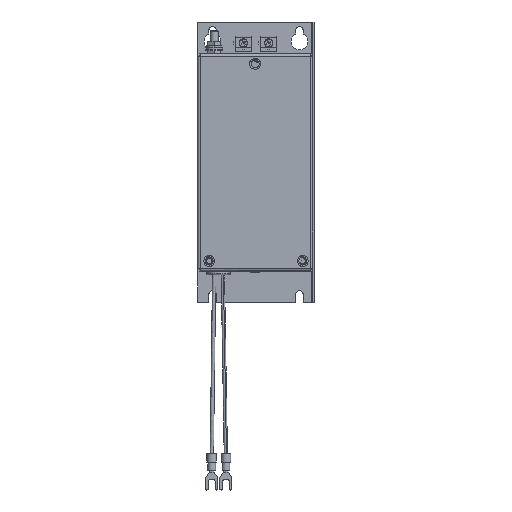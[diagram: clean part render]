
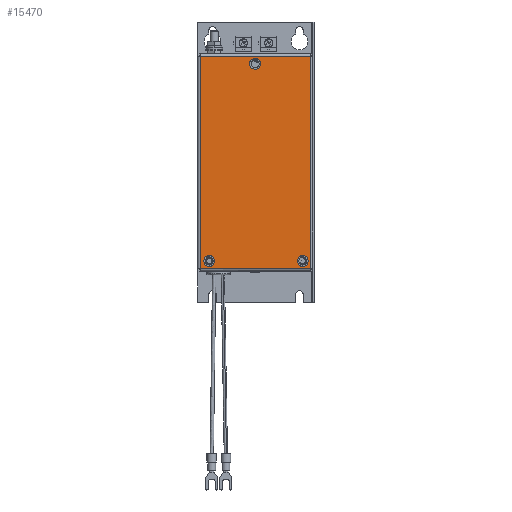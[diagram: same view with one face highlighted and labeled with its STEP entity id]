
A CAD part, front view. The second image highlights one B-rep face of the part: STEP entity #15470.
In plain terms, the highlighted planar face has unit normal (0, -1, 0).
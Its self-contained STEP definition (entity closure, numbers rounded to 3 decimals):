
#1461 = DIRECTION ( 'NONE',  ( -1., 0., 0. ) ) ;
#2843 = DIRECTION ( 'NONE',  ( 1., 0., 0. ) ) ;
#3065 = ORIENTED_EDGE ( 'NONE', *, *, #65163, .T. ) ;
#3835 = CARTESIAN_POINT ( 'NONE',  ( -37.154, 0., -65. ) ) ;
#4229 = CARTESIAN_POINT ( 'NONE',  ( -8.654, 0., -124. ) ) ;
#4364 = ORIENTED_EDGE ( 'NONE', *, *, #28889, .T. ) ;
#4720 = CIRCLE ( 'NONE', #42073, 2.975 ) ;
#6026 = LINE ( 'NONE', #57185, #37045 ) ;
#6737 = DIRECTION ( 'NONE',  ( 1., 0., 0. ) ) ;
#7076 = VECTOR ( 'NONE', #33253, 1000. ) ;
#7813 = CARTESIAN_POINT ( 'NONE',  ( -11.629, 0., -124. ) ) ;
#7958 = CIRCLE ( 'NONE', #26126, 2.975 ) ;
#9545 = DIRECTION ( 'NONE',  ( 0., 1., 0. ) ) ;
#10673 = VERTEX_POINT ( 'NONE', #53551 ) ;
#11314 = CARTESIAN_POINT ( 'NONE',  ( -37.154, 0., -6. ) ) ;
#11489 = EDGE_CURVE ( 'NONE', #12214, #38595, #4720, .T. ) ;
#11646 = DIRECTION ( 'NONE',  ( 0., 1., 0. ) ) ;
#11811 = VERTEX_POINT ( 'NONE', #7813 ) ;
#12214 = VERTEX_POINT ( 'NONE', #29045 ) ;
#12821 = CARTESIAN_POINT ( 'NONE',  ( -70.154, 0., -33.25 ) ) ;
#14910 = DIRECTION ( 'NONE',  ( 1., 0., 0. ) ) ;
#15470 = ADVANCED_FACE ( 'NONE', ( #18201, #33276, #39924, #64341 ), #48631, .F. ) ;
#15732 = DIRECTION ( 'NONE',  ( 0., 0., 1. ) ) ;
#17142 = DIRECTION ( 'NONE',  ( 1., 0., 0. ) ) ;
#18042 = CIRCLE ( 'NONE', #55436, 2.975 ) ;
#18074 = ORIENTED_EDGE ( 'NONE', *, *, #11489, .T. ) ;
#18201 = FACE_BOUND ( 'NONE', #62756, .T. ) ;
#18575 = ORIENTED_EDGE ( 'NONE', *, *, #65536, .T. ) ;
#20378 = CARTESIAN_POINT ( 'NONE',  ( -4.154, 0., -1.5 ) ) ;
#20755 = CARTESIAN_POINT ( 'NONE',  ( -67.629, 0., -124. ) ) ;
#22473 = LINE ( 'NONE', #52553, #31422 ) ;
#22872 = VECTOR ( 'NONE', #1461, 1000. ) ;
#24498 = DIRECTION ( 'NONE',  ( 0., 1., 0. ) ) ;
#26051 = DIRECTION ( 'NONE',  ( 1., 0., 0. ) ) ;
#26126 = AXIS2_PLACEMENT_3D ( 'NONE', #4229, #9545, #14910 ) ;
#27314 = EDGE_CURVE ( 'NONE', #43150, #59271, #32529, .T. ) ;
#28278 = EDGE_LOOP ( 'NONE', ( #30538, #3065 ) ) ;
#28664 = CARTESIAN_POINT ( 'NONE',  ( -64.654, 0., -124. ) ) ;
#28889 = EDGE_CURVE ( 'NONE', #10673, #46600, #18042, .T. ) ;
#29045 = CARTESIAN_POINT ( 'NONE',  ( -61.679, 0., -124. ) ) ;
#29114 = AXIS2_PLACEMENT_3D ( 'NONE', #28664, #40023, #29328 ) ;
#29299 = DIRECTION ( 'NONE',  ( 0., 1., 0. ) ) ;
#29328 = DIRECTION ( 'NONE',  ( 1., 0., 0. ) ) ;
#30538 = ORIENTED_EDGE ( 'NONE', *, *, #48235, .T. ) ;
#31274 = CARTESIAN_POINT ( 'NONE',  ( -34.179, 0., -6. ) ) ;
#31422 = VECTOR ( 'NONE', #6737, 1000. ) ;
#32205 = CARTESIAN_POINT ( 'NONE',  ( -19.904, 0., -1.5 ) ) ;
#32529 = LINE ( 'NONE', #32205, #22872 ) ;
#33253 = DIRECTION ( 'NONE',  ( 0., 0., -1. ) ) ;
#33276 = FACE_BOUND ( 'NONE', #28278, .T. ) ;
#33875 = ORIENTED_EDGE ( 'NONE', *, *, #51271, .T. ) ;
#36610 = CARTESIAN_POINT ( 'NONE',  ( -70.154, 0., -128.5 ) ) ;
#37037 = VERTEX_POINT ( 'NONE', #47004 ) ;
#37045 = VECTOR ( 'NONE', #15732, 1000. ) ;
#38019 = DIRECTION ( 'NONE',  ( 1., 0., 0. ) ) ;
#38595 = VERTEX_POINT ( 'NONE', #20755 ) ;
#38605 = DIRECTION ( 'NONE',  ( 0., 1., 0. ) ) ;
#39457 = AXIS2_PLACEMENT_3D ( 'NONE', #11314, #11646, #26051 ) ;
#39924 = FACE_BOUND ( 'NONE', #52721, .T. ) ;
#40023 = DIRECTION ( 'NONE',  ( 0., 1., 0. ) ) ;
#40282 = ORIENTED_EDGE ( 'NONE', *, *, #63171, .T. ) ;
#42073 = AXIS2_PLACEMENT_3D ( 'NONE', #44344, #29299, #38019 ) ;
#42552 = CARTESIAN_POINT ( 'NONE',  ( -8.654, 0., -124. ) ) ;
#43150 = VERTEX_POINT ( 'NONE', #20378 ) ;
#43899 = CARTESIAN_POINT ( 'NONE',  ( -70.154, 0., -1.5 ) ) ;
#44344 = CARTESIAN_POINT ( 'NONE',  ( -64.654, 0., -124. ) ) ;
#44454 = AXIS2_PLACEMENT_3D ( 'NONE', #3835, #38605, #2843 ) ;
#46600 = VERTEX_POINT ( 'NONE', #31274 ) ;
#47004 = CARTESIAN_POINT ( 'NONE',  ( -5.679, 0., -124. ) ) ;
#48235 = EDGE_CURVE ( 'NONE', #37037, #11811, #66022, .T. ) ;
#48631 = PLANE ( 'NONE',  #44454 ) ;
#48780 = ORIENTED_EDGE ( 'NONE', *, *, #27314, .T. ) ;
#51271 = EDGE_CURVE ( 'NONE', #46600, #10673, #57649, .T. ) ;
#52553 = CARTESIAN_POINT ( 'NONE',  ( -53.654, 0., -128.5 ) ) ;
#52657 = CIRCLE ( 'NONE', #29114, 2.975 ) ;
#52721 = EDGE_LOOP ( 'NONE', ( #18074, #40282 ) ) ;
#53551 = CARTESIAN_POINT ( 'NONE',  ( -40.129, 0., -6. ) ) ;
#54265 = DIRECTION ( 'NONE',  ( 1., 0., 0. ) ) ;
#55436 = AXIS2_PLACEMENT_3D ( 'NONE', #59270, #24498, #54265 ) ;
#56826 = CARTESIAN_POINT ( 'NONE',  ( -4.154, 0., -128.5 ) ) ;
#56937 = DIRECTION ( 'NONE',  ( 0., 1., 0. ) ) ;
#57185 = CARTESIAN_POINT ( 'NONE',  ( -4.154, 0., -96.75 ) ) ;
#57649 = CIRCLE ( 'NONE', #39457, 2.975 ) ;
#59137 = ORIENTED_EDGE ( 'NONE', *, *, #64622, .T. ) ;
#59248 = VERTEX_POINT ( 'NONE', #36610 ) ;
#59270 = CARTESIAN_POINT ( 'NONE',  ( -37.154, 0., -6. ) ) ;
#59271 = VERTEX_POINT ( 'NONE', #43899 ) ;
#59380 = EDGE_LOOP ( 'NONE', ( #60926, #48780, #18575, #59137 ) ) ;
#59911 = VERTEX_POINT ( 'NONE', #56826 ) ;
#60926 = ORIENTED_EDGE ( 'NONE', *, *, #66105, .T. ) ;
#62756 = EDGE_LOOP ( 'NONE', ( #33875, #4364 ) ) ;
#63171 = EDGE_CURVE ( 'NONE', #38595, #12214, #52657, .T. ) ;
#63842 = AXIS2_PLACEMENT_3D ( 'NONE', #42552, #56937, #17142 ) ;
#63994 = LINE ( 'NONE', #12821, #7076 ) ;
#64341 = FACE_OUTER_BOUND ( 'NONE', #59380, .T. ) ;
#64622 = EDGE_CURVE ( 'NONE', #59248, #59911, #22473, .T. ) ;
#65163 = EDGE_CURVE ( 'NONE', #11811, #37037, #7958, .T. ) ;
#65536 = EDGE_CURVE ( 'NONE', #59271, #59248, #63994, .T. ) ;
#66022 = CIRCLE ( 'NONE', #63842, 2.975 ) ;
#66105 = EDGE_CURVE ( 'NONE', #59911, #43150, #6026, .T. ) ;
